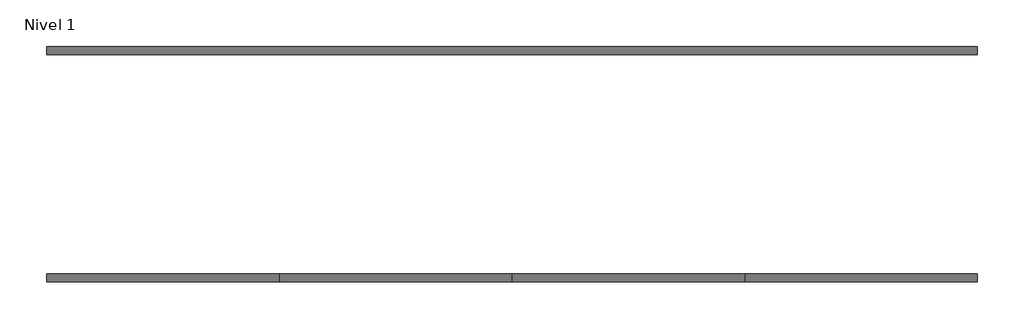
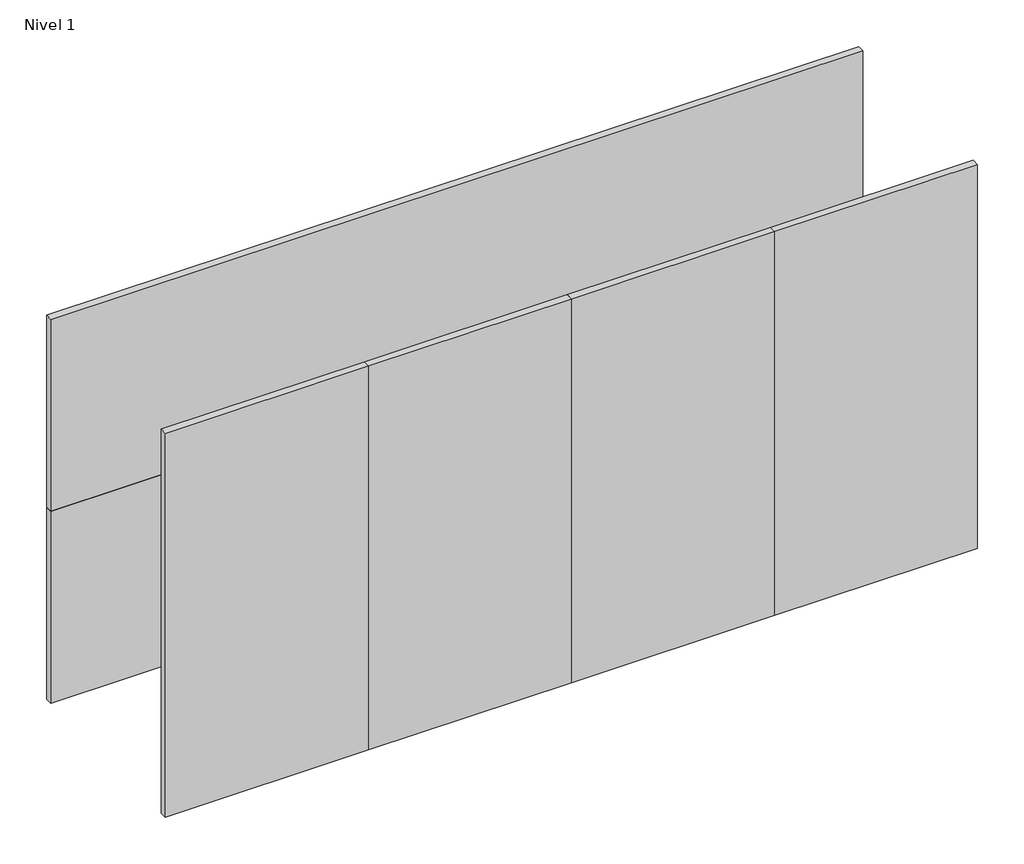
# One storey: 6 plates.
"""IFC4 building model written with IfcOpenShell, lengths in millimetres."""

from ifc_helpers import new_model, si_unit, origin, place, context, project, spatial, transform, mapped, element, save
from components import panel_del_sistema_cfb1d93e, panel_del_sistema_f1661970

model = new_model("IFC4")

# Units and contexts
model_context = context("Model", 3, world=origin())
ifc_project = project(units=[si_unit("LENGTHUNIT", "METRE", prefix="MILLI")], contexts=[model_context])

# Site, building, storey
site = spatial("IfcSite", under=ifc_project)
building = spatial("IfcBuilding", under=site)
storey = spatial("IfcBuildingStorey", under=building, Name="Nivel 1", Elevation=0.0)

# Plates
placement = place(None, origin())
panel_del_sistema_shape = panel_del_sistema_cfb1d93e(model_context)
element("IfcPlate", 1, ObjectType="Panel del sistema : Hiansa Panel - PANELES DE ILUMINACIÓN - POLICLADD Hor - 35mm", at=placement, inside=storey, context=model_context, shape_type="MappedRepresentation", body=[
    mapped(panel_del_sistema_shape, transform((6468.14367, 17636.5269271, 0.0), x_axis=(1.0, 0.0, 0.0), y_axis=(0.0, 1.0, 0.0), z_axis=(0.0, 0.0, 1.0))),
])
element("IfcPlate", 2, ObjectType="Panel del sistema : Hiansa Panel - PANELES DE ILUMINACIÓN - POLICLADD Hor - 35mm", at=placement, inside=storey, context=model_context, shape_type="MappedRepresentation", body=[
    mapped(panel_del_sistema_shape, transform((6468.14367, 17636.5269271, 1000.0), x_axis=(1.0, 0.0, 0.0), y_axis=(0.0, 1.0, 0.0), z_axis=(0.0, 0.0, 1.0))),
])
panel_del_sistema_2_shape = panel_del_sistema_f1661970(model_context)
element("IfcPlate", 3, ObjectType="Panel del sistema : Hiansa Panel - PANELES DE ILUMINACIÓN - POLICLADD Vert - 35mm", at=placement, inside=storey, context=model_context, shape_type="MappedRepresentation", body=[
    mapped(panel_del_sistema_2_shape, transform((4968.1436702, 16658.0269271, 0.0), x_axis=(1.0, 0.0, 0.0), y_axis=(0.0, 1.0, 0.0), z_axis=(0.0, 0.0, 1.0))),
])
element("IfcPlate", 4, ObjectType="Panel del sistema : Hiansa Panel - PANELES DE ILUMINACIÓN - POLICLADD Vert - 35mm", at=placement, inside=storey, context=model_context, shape_type="MappedRepresentation", body=[
    mapped(panel_del_sistema_2_shape, transform((5968.1436703, 16658.0269271, 0.0), x_axis=(1.0, 0.0, 0.0), y_axis=(0.0, 1.0, 0.0), z_axis=(0.0, 0.0, 1.0))),
])
element("IfcPlate", 5, ObjectType="Panel del sistema : Hiansa Panel - PANELES DE ILUMINACIÓN - POLICLADD Vert - 35mm", at=placement, inside=storey, context=model_context, shape_type="MappedRepresentation", body=[
    mapped(panel_del_sistema_2_shape, transform((6968.1436703, 16658.0269271, 0.0), x_axis=(1.0, 0.0, 0.0), y_axis=(0.0, 1.0, 0.0), z_axis=(0.0, 0.0, 1.0))),
])
element("IfcPlate", 6, ObjectType="Panel del sistema : Hiansa Panel - PANELES DE ILUMINACIÓN - POLICLADD Vert - 35mm", at=placement, inside=storey, context=model_context, shape_type="MappedRepresentation", body=[
    mapped(panel_del_sistema_2_shape, transform((7968.1436702, 16658.0269271, 0.0), x_axis=(1.0, 0.0, 0.0), y_axis=(0.0, 1.0, 0.0), z_axis=(0.0, 0.0, 1.0))),
])

save(model, "model.ifc")
